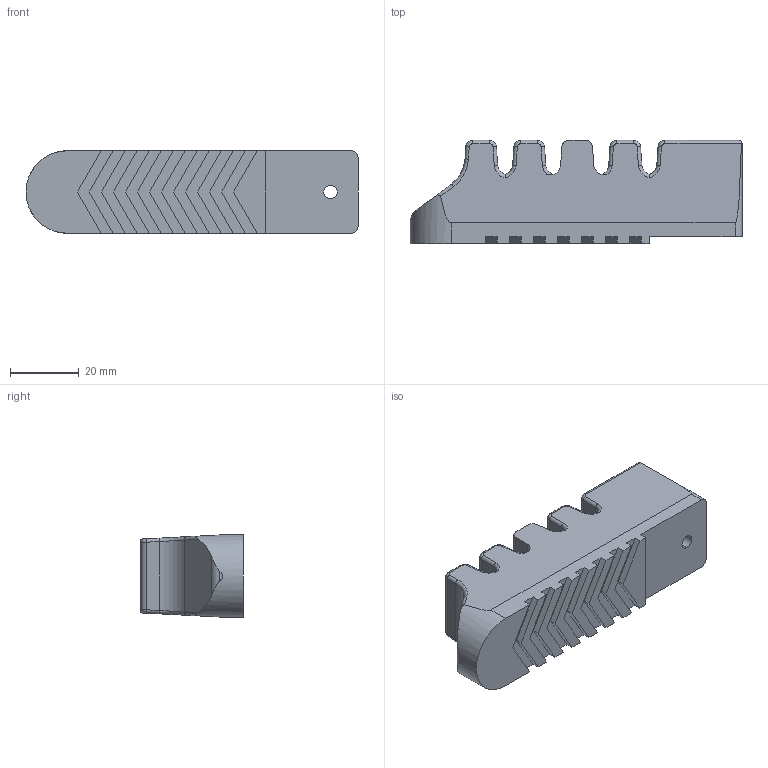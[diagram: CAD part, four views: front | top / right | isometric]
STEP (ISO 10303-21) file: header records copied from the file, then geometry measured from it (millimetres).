
FILE_DESCRIPTION (( 'STEP AP214' ), '1' );
FILE_NAME ('A5.STEP', '2019-12-04T07:19:43', ( '微软用户' ), ( '微软中国' ), 'SwSTEP 2.0', 'SolidWorks 2016', '' );
FILE_SCHEMA (( 'AUTOMOTIVE_DESIGN' ));
Length unit declared in the file: millimetre
Products named in the file (1): A5
Bounding box: 96.7 x 30 x 24 mm (x, y, z)
Volume: 53688.1 mm3; surface area: 12429.8 mm2
Topology: 1 solids, 1 shells, 136 faces, 361 edges, 227 vertices
Faces by surface type: plane 66, cylinder 46, bspline 24
Entity records: 7258 total; most frequent: CARTESIAN_POINT 2641, ORIENTED_EDGE 722, DIRECTION 544, EDGE_CURVE 361, LINE 232, VECTOR 232, VERTEX_POINT 227, AXIS2_PLACEMENT_3D 156
